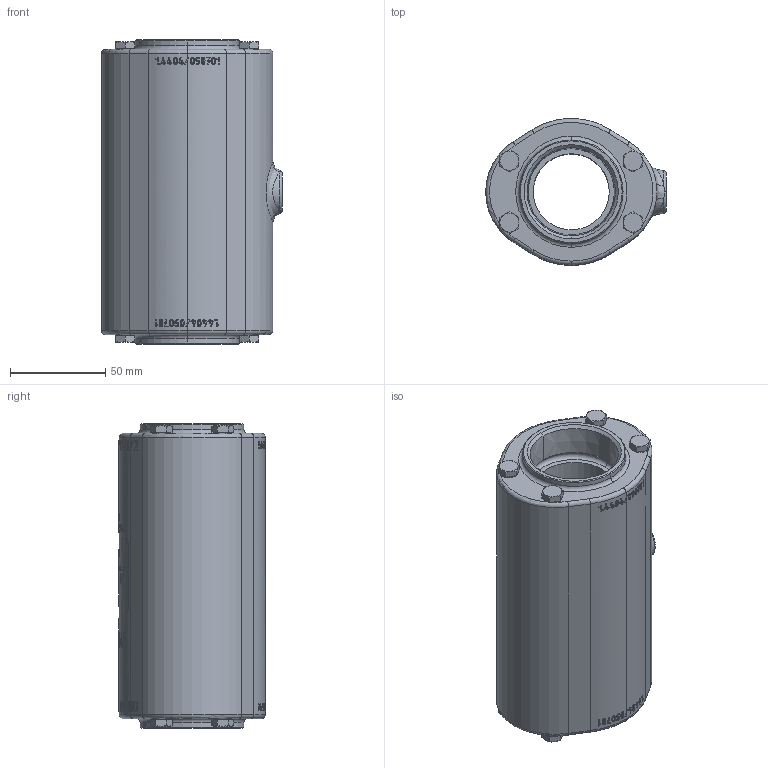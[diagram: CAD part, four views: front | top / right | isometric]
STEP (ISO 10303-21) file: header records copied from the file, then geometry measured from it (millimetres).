
FILE_DESCRIPTION (( 'STEP AP214' ), '1' );
FILE_NAME ('VMC40xx50N50_EV.STEP', '2015-02-19T07:23:35', ( '' ), ( '' ), 'SwSTEP 2.0', 'SolidWorks 2015', '' );
FILE_SCHEMA (( 'AUTOMOTIVE_DESIGN' ));
Length unit declared in the file: millimetre
Products named in the file (1): VMC40xx50N50_EV
Bounding box: 95 x 77 x 160 mm (x, y, z)
Volume: 593940.3 mm3; surface area: 71576.1 mm2
Topology: 1 solids, 9 shells, 2013 faces, 5449 edges, 3566 vertices
Faces by surface type: bspline 1207, plane 501, cylinder 185, cone 84, torus 36
Entity records: 169155 total; most frequent: CARTESIAN_POINT 106839, ORIENTED_EDGE 10898, EDGE_CURVE 5449, DIRECTION 3980, B_SPLINE_CURVE_WITH_KNOTS 3699, VERTEX_POINT 3566, EDGE_LOOP 2143, UNCERTAINTY_MEASURE_WITH_UNIT 2016
